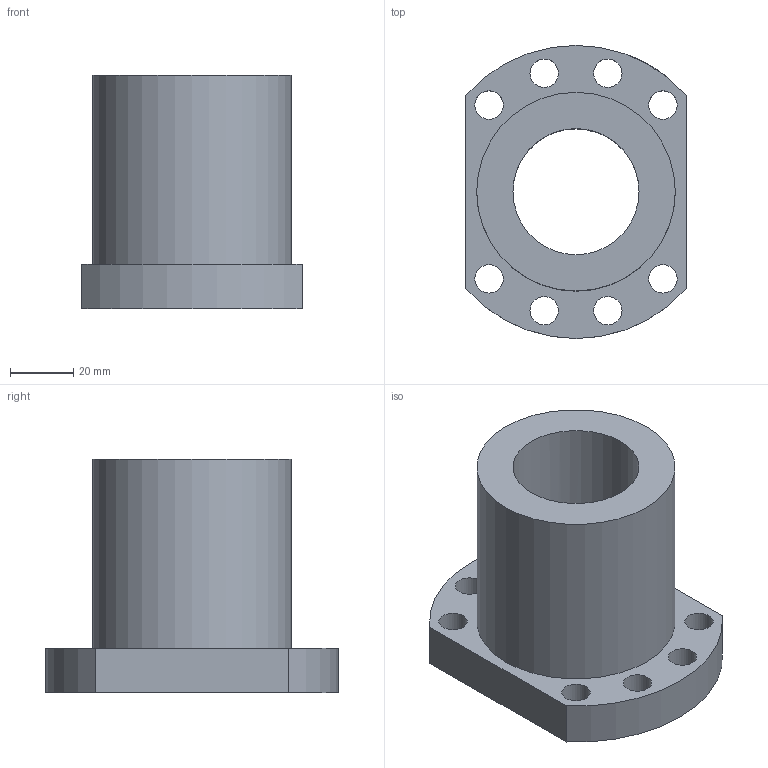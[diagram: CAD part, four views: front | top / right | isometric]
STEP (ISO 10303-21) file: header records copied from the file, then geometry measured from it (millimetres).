
FILE_DESCRIPTION(/* description */ (''),/* implementation_level */ '2;1');
FILE_NAME(/* name */ '40-10T3',/* time_stamp */ '2007-05-17T17:55:36+08:00',/* author */ (''),/* organization */ (''),/* preprocessor_version */ 'ST-DEVELOPER v9',/* originating_system */ 'UGS - NX 4.0',/* authorisation */ '');
FILE_SCHEMA (('CONFIG_CONTROL_DESIGN'));
Length unit declared in the file: millimetre
Products named in the file (1): 40-10T3
Bounding box: 70 x 93 x 74 mm (x, y, z)
Volume: 167630.6 mm3; surface area: 36879.9 mm2
Topology: 1 solids, 1 shells, 20 faces, 48 edges, 32 vertices
Faces by surface type: cylinder 14, plane 6
Full cylindrical faces by diameter (mm): 6 x1, 8 x1, 9 x8, 40 x1, 63 x1
Entity records: 774 total; most frequent: CARTESIAN_POINT 203, DIRECTION 102, ORIENTED_EDGE 72, EDGE_LOOP 54, AXIS2_PLACEMENT_3D 47, FACE_BOUND 46, EDGE_CURVE 36, VERTEX_POINT 32
